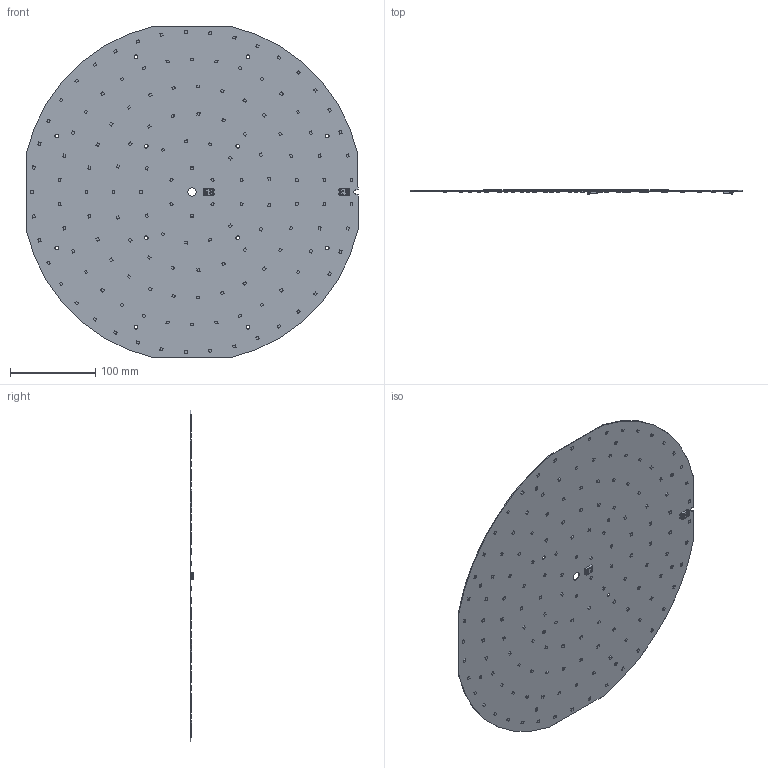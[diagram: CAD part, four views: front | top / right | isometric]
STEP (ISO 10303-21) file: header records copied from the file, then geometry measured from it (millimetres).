
FILE_DESCRIPTION(/* description */ ('Unknown'),/* implementation_level */ '2;1');
FILE_NAME(/* name */ 'RdLED 400mm 4000lm G2 sh-110 2020-07-08',/* time_stamp */ '2020-07-08T09:49:54+02:00',/* author */ ('Unknown'),/* organization */ ('Unknown'),/* preprocessor_version */ 'ST-DEVELOPER v16.7',/* originating_system */ 'Solid Edge',/* authorisation */ 'Unknown');
FILE_SCHEMA (('AUTOMOTIVE_DESIGN {1 0 10303 214 3 1 1}'));
Products named in the file (1): RdLED 400mm 4000lm G2 sh-110 2020-07-08
Bounding box: 390 x 4.45 x 390 mm (x, y, z)
Volume: 125870.8 mm3; surface area: 252216.8 mm2
Topology: 1 solids, 1 shells, 3075 faces, 8053 edges, 5258 vertices
Faces by surface type: plane 2567, cylinder 240, bspline 174, cone 52, torus 22, sphere 20
Full cylindrical faces by diameter (mm): 4.3 x12, 10 x1
Entity records: 118832 total; most frequent: CARTESIAN_POINT 23266, ORIENTED_EDGE 16004, DIRECTION 13604, EDGE_CURVE 8002, LINE 6900, VECTOR 6900, VERTEX_POINT 5248, EDGE_LOOP 3432
